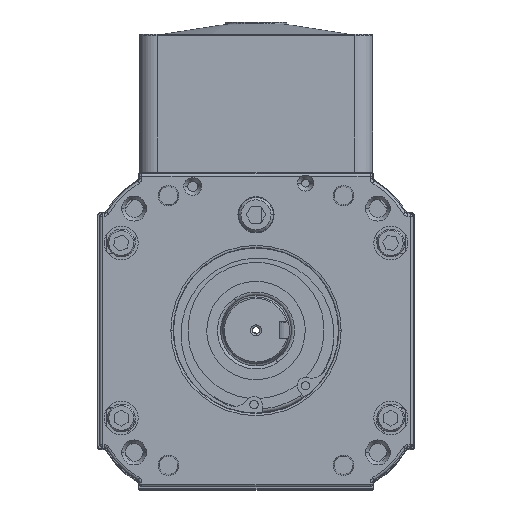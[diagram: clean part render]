
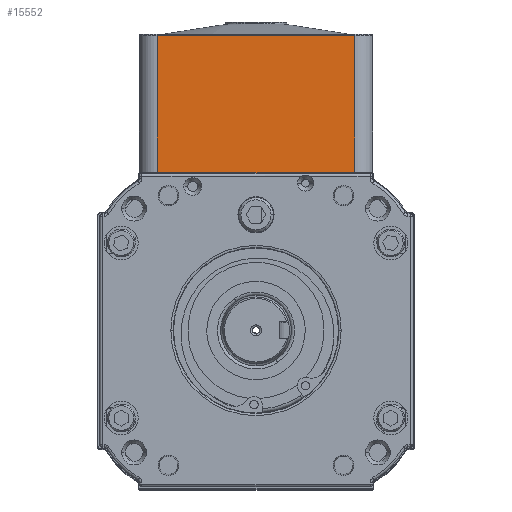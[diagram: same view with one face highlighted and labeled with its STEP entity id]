
A CAD part, top view. The second image highlights one B-rep face of the part: STEP entity #15552.
In plain terms, the highlighted planar face has unit normal (0, 0, 1).
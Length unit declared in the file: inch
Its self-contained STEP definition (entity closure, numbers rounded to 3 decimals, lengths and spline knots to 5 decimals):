
#15546 = VERTEX_POINT ( 'NONE', #22129 ) ;
#15548 = EDGE_CURVE ( 'NONE', #15549, #15546, #22128, .T. ) ;
#15549 = VERTEX_POINT ( 'NONE', #22124 ) ;
#15552 = ADVANCED_FACE ( 'NONE', ( #22118 ), #22117, .F. ) ;
#15553 = EDGE_LOOP ( 'NONE', ( #15554, #15555, #15611, #15614 ) ) ;
#15554 = ORIENTED_EDGE ( 'NONE', *, *, #15548, .T. ) ;
#15555 = ORIENTED_EDGE ( 'NONE', *, *, #15556, .T. ) ;
#15556 = EDGE_CURVE ( 'NONE', #15546, #15557, #22115, .T. ) ;
#15557 = VERTEX_POINT ( 'NONE', #22108 ) ;
#15611 = ORIENTED_EDGE ( 'NONE', *, *, #15612, .T. ) ;
#15612 = EDGE_CURVE ( 'NONE', #15557, #15613, #22270, .T. ) ;
#15613 = VERTEX_POINT ( 'NONE', #22266 ) ;
#15614 = ORIENTED_EDGE ( 'NONE', *, *, #15615, .T. ) ;
#15615 = EDGE_CURVE ( 'NONE', #15613, #15549, #22265, .T. ) ;
#22108 = CARTESIAN_POINT ( 'NONE',  ( -1.1125, 3.324, 4.084 ) ) ;
#22109 = DIRECTION ( 'NONE',  ( -1., 0., 0. ) ) ;
#22110 = VECTOR ( 'NONE', #22109, 39.37008 ) ;
#22111 = CARTESIAN_POINT ( 'NONE',  ( -1.1125, 3.324, 4.084 ) ) ;
#22112 = DIRECTION ( 'NONE',  ( -1., 0., 0. ) ) ;
#22113 = DIRECTION ( 'NONE',  ( 0., 0., -1. ) ) ;
#22114 = AXIS2_PLACEMENT_3D ( 'NONE', #22116, #22113, #22112 ) ;
#22115 = LINE ( 'NONE', #22111, #22110 ) ;
#22116 = CARTESIAN_POINT ( 'NONE',  ( 1.3125, 3.338, 4.084 ) ) ;
#22117 = PLANE ( 'NONE',  #22114 ) ;
#22118 = FACE_OUTER_BOUND ( 'NONE', #15553, .T. ) ;
#22124 = CARTESIAN_POINT ( 'NONE',  ( 1.1125, 1.7765, 4.084 ) ) ;
#22125 = DIRECTION ( 'NONE',  ( 0., 1., 0. ) ) ;
#22126 = VECTOR ( 'NONE', #22125, 39.37008 ) ;
#22127 = CARTESIAN_POINT ( 'NONE',  ( 1.1125, 3.338, 4.084 ) ) ;
#22128 = LINE ( 'NONE', #22127, #22126 ) ;
#22129 = CARTESIAN_POINT ( 'NONE',  ( 1.1125, 3.324, 4.084 ) ) ;
#22262 = DIRECTION ( 'NONE',  ( 1., 0., 0. ) ) ;
#22263 = VECTOR ( 'NONE', #22262, 39.37008 ) ;
#22264 = CARTESIAN_POINT ( 'NONE',  ( 1.3125, 1.7765, 4.084 ) ) ;
#22265 = LINE ( 'NONE', #22264, #22263 ) ;
#22266 = CARTESIAN_POINT ( 'NONE',  ( -1.1125, 1.7765, 4.084 ) ) ;
#22267 = DIRECTION ( 'NONE',  ( 0., -1., 0. ) ) ;
#22268 = VECTOR ( 'NONE', #22267, 39.37008 ) ;
#22269 = CARTESIAN_POINT ( 'NONE',  ( -1.1125, 3.338, 4.084 ) ) ;
#22270 = LINE ( 'NONE', #22269, #22268 ) ;
